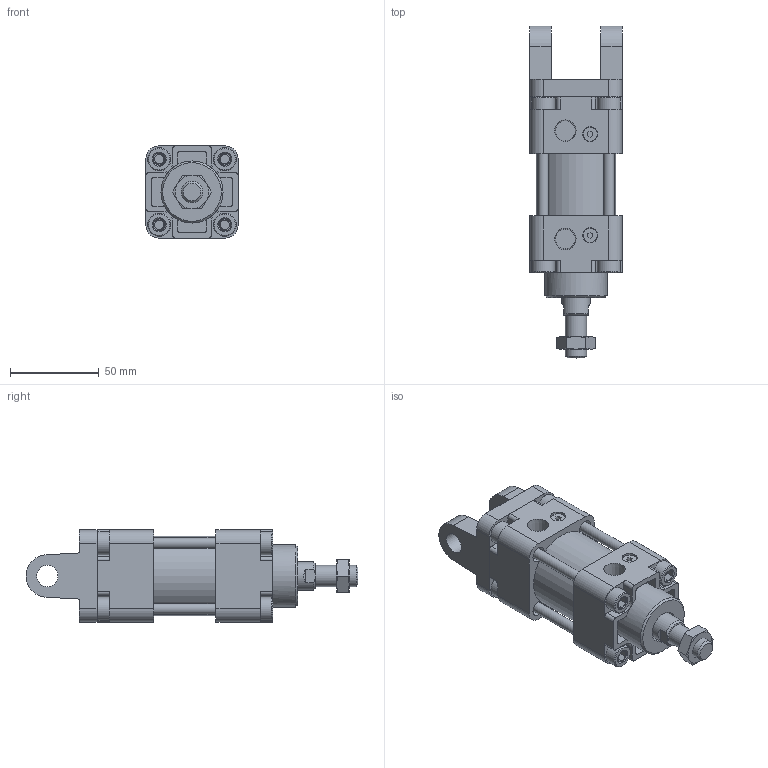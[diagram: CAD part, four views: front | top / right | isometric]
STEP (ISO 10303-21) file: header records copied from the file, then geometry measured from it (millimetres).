
FILE_DESCRIPTION(/* description */ ('Unknown'),/* implementation_level */ '2;1');
FILE_NAME(/* name */ 'WA40-CB',/* time_stamp */ '2026-07-17T16:48:13+08:00',/* author */ ('Unknown'),/* organization */ ('Unknown'),/* preprocessor_version */ 'ST-DEVELOPER v16.7',/* originating_system */ 'DEX',/* authorisation */ $);
FILE_SCHEMA (('CONFIG_CONTROL_DESIGN'));
Length unit declared in the file: millimetre
Products named in the file (8): WA40-CB; WA40_前; WA40_後; WA40_ｾT∫ｮ｡; WA40_¤ß¶b¬¡æ´»å¡žçµ„; WA40_T帽牙T; M12-1.25P-7_螺; WA40_CB
Assembly tree (10 placements, depth 2):
  WA40-CB
    WA40_前
    WA40_後
    WA40_ｾT∫ｮ｡
    WA40_¤ß¶b¬¡æ´»å¡žçµ„
    WA40_T帽牙T  x4
    M12-1.25P-7_螺
    WA40_CB
Bounding box: 52 x 187 x 52 mm (x, y, z)
Volume: 269060.6 mm3; surface area: 83376.5 mm2
Topology: 10 solids, 10 shells, 376 faces, 907 edges, 608 vertices
Faces by surface type: plane 221, cylinder 118, cone 37
Full cylindrical faces by diameter (mm): 5 x8, 6 x4, 7 x4, 8 x2, 8.5 x2, 8.8 x8, 9 x8, 10.647 x1, 11 x4, 12 x3, 13 x8, 16 x2, 35 x1, 39.5 x1, 40 x3, 45 x1
Entity records: 9553 total; most frequent: CARTESIAN_POINT 1404, DIRECTION 1378, ORIENTED_EDGE 1218, EDGE_CURVE 609, AXIS2_PLACEMENT_3D 515, VERTEX_POINT 429, EDGE_LOOP 382, FACE_BOUND 382
